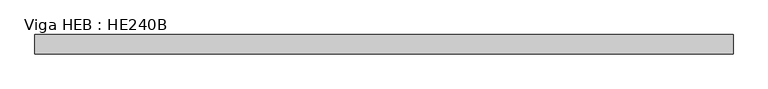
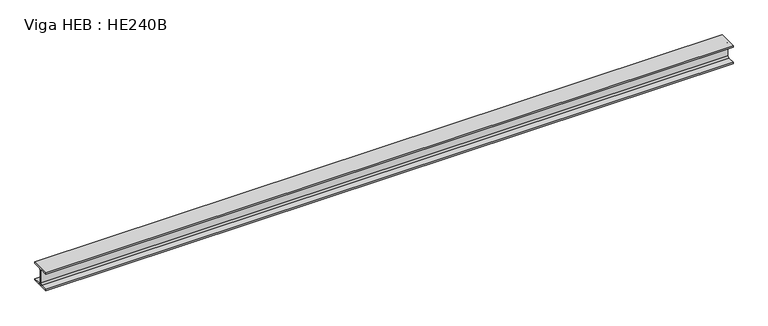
"""IFC4 building model written with IfcOpenShell, lengths in millimetres: beam geometry, Viga HEB : HE240B."""

from ifc_helpers import new_model, si_unit, point, frame, frame_2d, origin, place, context, project, spatial, polyline, circle_curve, trimmed, segment, composite_curve, outline, extrude, source, transform, mapped, element, save


def viga_heb_he240b_13f2b1aa(model_context):
    return source(origin(), model_context, "Body", "SweptSolid", [
        extrude(outline(composite_curve([segment(polyline([(120.0, -103.0), (120.0, -120.0), (-120.0, -120.0), (-120.0, -103.0), (-26.0, -103.0)]), True, "CONTINUOUS"), segment(trimmed(circle_curve(frame_2d((-26.0, -82.0)), 21.0), [point((-26.0, -103.0))], [point((-5.0, -82.0))], True, "CARTESIAN"), True, "CONTINUOUS"), segment(polyline([(-5.0, -82.0), (-5.0, 82.0)]), True, "CONTINUOUS"), segment(trimmed(circle_curve(frame_2d((-26.0, 82.0)), 21.0), [point((-5.0, 82.0))], [point((-26.0, 103.0))], True, "CARTESIAN"), True, "CONTINUOUS"), segment(polyline([(-26.0, 103.0), (-120.0, 103.0), (-120.0, 120.0), (120.0, 120.0), (120.0, 103.0), (26.0, 103.0)]), True, "CONTINUOUS"), segment(trimmed(circle_curve(frame_2d((26.0, 82.0)), 21.0), [point((26.0, 103.0))], [point((5.0, 82.0))], True, "CARTESIAN"), True, "CONTINUOUS"), segment(polyline([(5.0, 82.0), (5.0, -82.0)]), True, "CONTINUOUS"), segment(trimmed(circle_curve(frame_2d((26.0, -82.0)), 21.0), [point((5.0, -82.0))], [point((26.0, -103.0))], True, "CARTESIAN"), True, "CONTINUOUS"), segment(polyline([(26.0, -103.0), (120.0, -103.0)]), True, "CONTINUOUS")], self_intersect=False)), frame((-4358.0, 0.0, 0.0), z_axis=(1.0, 0.0, 0.0), x_axis=(0.0, 1.0, 0.0)), (0.0, 0.0, 1.0), 8716.0),
    ])


if __name__ == "__main__":
    model = new_model("IFC4")
    model_context = context("Model", 3, world=origin())
    ifc_project = project(units=[si_unit("LENGTHUNIT", "METRE", prefix="MILLI")], contexts=[model_context])
    site = spatial("IfcSite", under=ifc_project)
    building = spatial("IfcBuilding", under=site)
    placement = place(None, origin())
    viga_heb_he240b_shape = viga_heb_he240b_13f2b1aa(model_context)
    element("IfcBeam", 1, ObjectType="Viga HEB : HE240B", at=placement, inside=building, context=model_context, shape_type="MappedRepresentation", body=[
        mapped(viga_heb_he240b_shape, transform((0.0, 0.0, 0.0), x_axis=(1.0, 0.0, 0.0), y_axis=(0.0, 1.0, 0.0), z_axis=(0.0, 0.0, 1.0))),
    ])
    save(model, "model.ifc")
